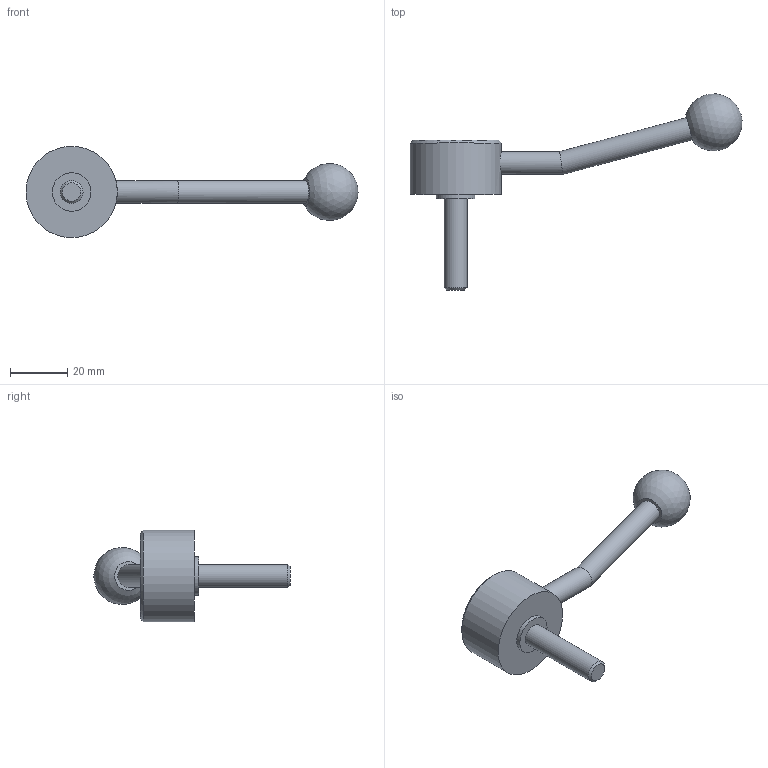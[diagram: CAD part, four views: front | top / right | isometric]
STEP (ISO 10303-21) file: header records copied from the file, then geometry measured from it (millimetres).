
FILE_DESCRIPTION( ( 'STEP AP203' ), '1' );
FILE_NAME( 'C:/Temp/Ganter_Step_05_03_2020/data/2_1/gn_125/gn_125_ms/gn_125_ms_e/Flat Adjustable Lever GN 125-32-M8-32-E.stp', '2020-03-05T11:00:54', ( 'License CC BY-ND 4.0' ), ( 'CADENAS' ), ' ', 'PARTsolutions', ' ' );
FILE_SCHEMA( ( 'CONFIG_CONTROL_DESIGN' ) );
Length unit declared in the file: millimetre
Products named in the file (1): _Flat Adjustable Lever GN 125-32-M8-32-E
Bounding box: 116.33 x 68.72 x 32 mm (x, y, z)
Volume: 24489.4 mm3; surface area: 7186.4 mm2
Topology: 1 solids, 1 shells, 15 faces, 26 edges, 17 vertices
Faces by surface type: cylinder 6, plane 6, cone 2, sphere 1
Full cylindrical faces by diameter (mm): 8 x3, 13.5 x1, 22 x1, 32 x1
Entity records: 404 total; most frequent: CARTESIAN_POINT 110, DIRECTION 58, AXIS2_PLACEMENT_3D 29, EDGE_LOOP 28, ORIENTED_EDGE 28, FACE_OUTER_BOUND 21, ADVANCED_FACE 15, VERTEX_POINT 15
